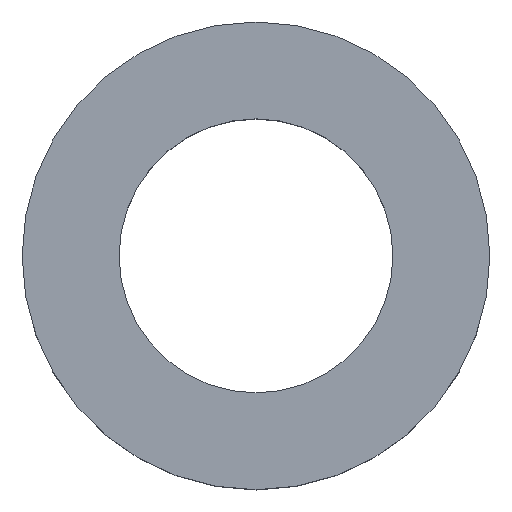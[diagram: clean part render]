
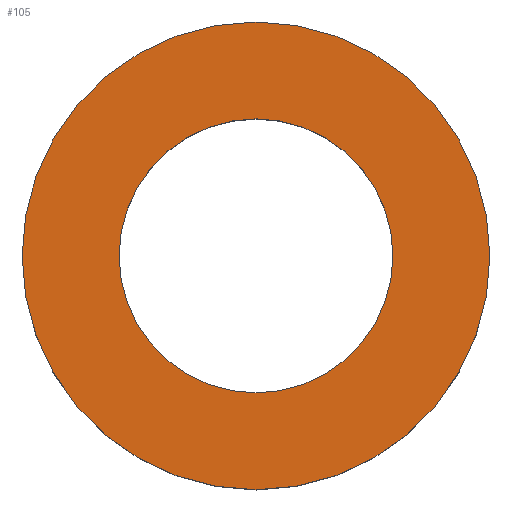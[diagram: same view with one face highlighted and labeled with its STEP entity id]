
A CAD part, top view. The second image highlights one B-rep face of the part: STEP entity #105.
In plain terms, the highlighted planar face has unit normal (0, 0, 1).
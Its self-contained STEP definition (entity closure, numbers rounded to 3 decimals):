
#21 = EDGE_CURVE('',#22,#22,#24,.T.);
#22 = VERTEX_POINT('',#23);
#23 = CARTESIAN_POINT('',(-426.,-147.233,30.));
#24 = SURFACE_CURVE('',#25,(#30,#42),.PCURVE_S1.);
#25 = CIRCLE('',#26,7.);
#26 = AXIS2_PLACEMENT_3D('',#27,#28,#29);
#27 = CARTESIAN_POINT('',(-433.,-147.233,30.));
#28 = DIRECTION('',(0.,0.,1.));
#29 = DIRECTION('',(1.,0.,-0.));
#30 = PCURVE('',#31,#36);
#31 = CYLINDRICAL_SURFACE('',#32,7.);
#32 = AXIS2_PLACEMENT_3D('',#33,#34,#35);
#33 = CARTESIAN_POINT('',(-433.,-147.233,26.));
#34 = DIRECTION('',(0.,0.,1.));
#35 = DIRECTION('',(1.,0.,-0.));
#36 = DEFINITIONAL_REPRESENTATION('',(#37),#41);
#37 = LINE('',#38,#39);
#38 = CARTESIAN_POINT('',(0.,4.));
#39 = VECTOR('',#40,1.);
#40 = DIRECTION('',(1.,0.));
#41 = ( GEOMETRIC_REPRESENTATION_CONTEXT(2) 
PARAMETRIC_REPRESENTATION_CONTEXT() REPRESENTATION_CONTEXT('2D SPACE',''
  ) );
#42 = PCURVE('',#43,#48);
#43 = PLANE('',#44);
#44 = AXIS2_PLACEMENT_3D('',#45,#46,#47);
#45 = CARTESIAN_POINT('',(-433.,-147.233,30.));
#46 = DIRECTION('',(0.,0.,1.));
#47 = DIRECTION('',(1.,0.,-0.));
#48 = DEFINITIONAL_REPRESENTATION('',(#49),#53);
#49 = CIRCLE('',#50,7.);
#50 = AXIS2_PLACEMENT_2D('',#51,#52);
#51 = CARTESIAN_POINT('',(0.,0.));
#52 = DIRECTION('',(1.,0.));
#53 = ( GEOMETRIC_REPRESENTATION_CONTEXT(2) 
PARAMETRIC_REPRESENTATION_CONTEXT() REPRESENTATION_CONTEXT('2D SPACE',''
  ) );
#105 = ADVANCED_FACE('',(#106,#109),#43,.T.);
#106 = FACE_BOUND('',#107,.T.);
#107 = EDGE_LOOP('',(#108));
#108 = ORIENTED_EDGE('',*,*,#21,.T.);
#109 = FACE_BOUND('',#110,.T.);
#110 = EDGE_LOOP('',(#111));
#111 = ORIENTED_EDGE('',*,*,#112,.F.);
#112 = EDGE_CURVE('',#113,#113,#115,.T.);
#113 = VERTEX_POINT('',#114);
#114 = CARTESIAN_POINT('',(-428.9,-147.233,30.));
#115 = SURFACE_CURVE('',#116,(#121,#128),.PCURVE_S1.);
#116 = CIRCLE('',#117,4.1);
#117 = AXIS2_PLACEMENT_3D('',#118,#119,#120);
#118 = CARTESIAN_POINT('',(-433.,-147.233,30.));
#119 = DIRECTION('',(0.,0.,1.));
#120 = DIRECTION('',(1.,0.,-0.));
#121 = PCURVE('',#43,#122);
#122 = DEFINITIONAL_REPRESENTATION('',(#123),#127);
#123 = CIRCLE('',#124,4.1);
#124 = AXIS2_PLACEMENT_2D('',#125,#126);
#125 = CARTESIAN_POINT('',(0.,0.));
#126 = DIRECTION('',(1.,0.));
#127 = ( GEOMETRIC_REPRESENTATION_CONTEXT(2) 
PARAMETRIC_REPRESENTATION_CONTEXT() REPRESENTATION_CONTEXT('2D SPACE',''
  ) );
#128 = PCURVE('',#129,#134);
#129 = CYLINDRICAL_SURFACE('',#130,4.1);
#130 = AXIS2_PLACEMENT_3D('',#131,#132,#133);
#131 = CARTESIAN_POINT('',(-433.,-147.233,26.));
#132 = DIRECTION('',(0.,0.,1.));
#133 = DIRECTION('',(1.,0.,-0.));
#134 = DEFINITIONAL_REPRESENTATION('',(#135),#139);
#135 = LINE('',#136,#137);
#136 = CARTESIAN_POINT('',(0.,4.));
#137 = VECTOR('',#138,1.);
#138 = DIRECTION('',(1.,0.));
#139 = ( GEOMETRIC_REPRESENTATION_CONTEXT(2) 
PARAMETRIC_REPRESENTATION_CONTEXT() REPRESENTATION_CONTEXT('2D SPACE',''
  ) );
